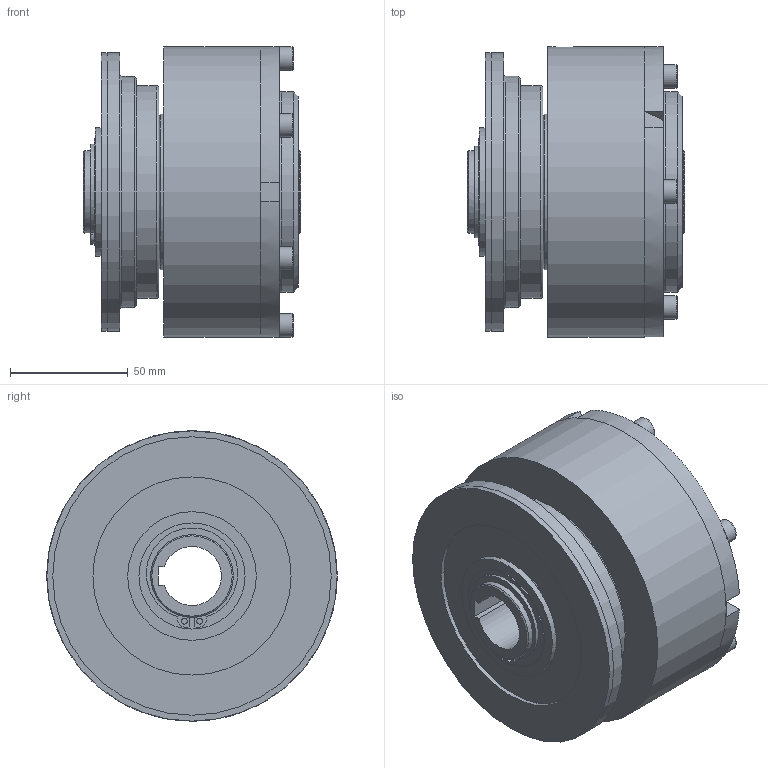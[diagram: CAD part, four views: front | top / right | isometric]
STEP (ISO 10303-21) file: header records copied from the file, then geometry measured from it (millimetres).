
FILE_DESCRIPTION(/* description */ (''),/* implementation_level */ '2;1');
FILE_NAME(/* name */ 'X:\INVENTOR\DISEGNI\03_Friz_Oleod_Pneum_Cil_Stat\03_53 MP-N\03_53_01_01 MP-N01\03_53_01_01 MP-N01.stp',/* time_stamp */ '2023-02-06T11:15:02+01:00',/* author */ ('alessio'),/* organization */ (''),/* preprocessor_version */ 'ST-DEVELOPER v18.1',/* originating_system */ 'Autodesk Inventor 2021',/* authorisation */ '');
FILE_SCHEMA (('AUTOMOTIVE_DESIGN { 1 0 10303 214 3 1 1 }'));
Products named in the file (1): 03_53_01_01 MP-N01
Bounding box: 92 x 123 x 123 mm (x, y, z)
Volume: 666087.2 mm3; surface area: 210440 mm2
Topology: 1 solids, 19 shells, 1187 faces, 3322 edges, 2181 vertices
Faces by surface type: cylinder 439, bspline 237, plane 230, torus 228, cone 34, sphere 19
Full cylindrical faces by diameter (mm): 2.5 x4, 3 x2, 4.917 x6, 5.25 x3, 6 x7, 6.5 x6, 7.5 x18, 8.566 x1, 10 x6, 33 x2, 35 x5, 38 x1, 43 x1, 44.5 x1, 45 x1, 46.84 x2, 54 x1, 54.5 x1, 55 x2, 60 x1, 60.16 x2, 66 x3, 66.2 x2, 72 x3, 75 x1, 75.5 x2, 78.8 x2, 80 x1, 84 x2, 85 x4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
Entity records: 74081 total; most frequent: CARTESIAN_POINT 43086, ORIENTED_EDGE 6540, DIRECTION 6078, EDGE_CURVE 3270, AXIS2_PLACEMENT_3D 2698, VERTEX_POINT 2180, CIRCLE 1741, EDGE_LOOP 1342
